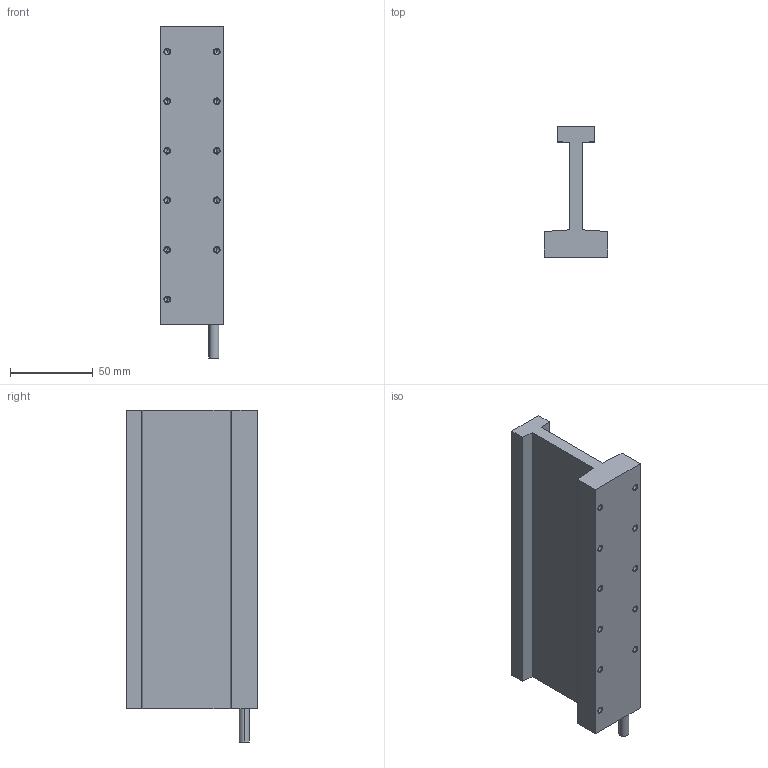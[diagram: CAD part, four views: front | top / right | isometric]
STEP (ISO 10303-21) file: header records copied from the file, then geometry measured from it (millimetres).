
FILE_DESCRIPTION (( 'STEP AP214' ), '1' );
FILE_NAME ('JKB43.STEP', '2025-09-05T12:49:15', ( '' ), ( '' ), 'SwSTEP 2.0', 'SolidWorks 2016', '' );
FILE_SCHEMA (( 'AUTOMOTIVE_DESIGN' ));
Length unit declared in the file: millimetre
Products named in the file (1): JKB43
Bounding box: 38.5 x 79.3 x 201 mm (x, y, z)
Volume: 224967.6 mm3; surface area: 51889.1 mm2
Topology: 1 solids, 1 shells, 83 faces, 196 edges, 105 vertices
Faces by surface type: cone 44, cylinder 24, plane 15
Entity records: 2470 total; most frequent: DIRECTION 412, CARTESIAN_POINT 363, ORIENTED_EDGE 348, EDGE_CURVE 174, AXIS2_PLACEMENT_3D 154, VERTEX_POINT 105, VECTOR 104, LINE 104
